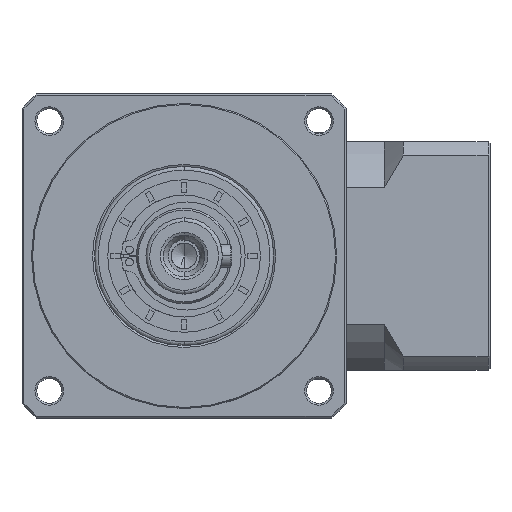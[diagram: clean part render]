
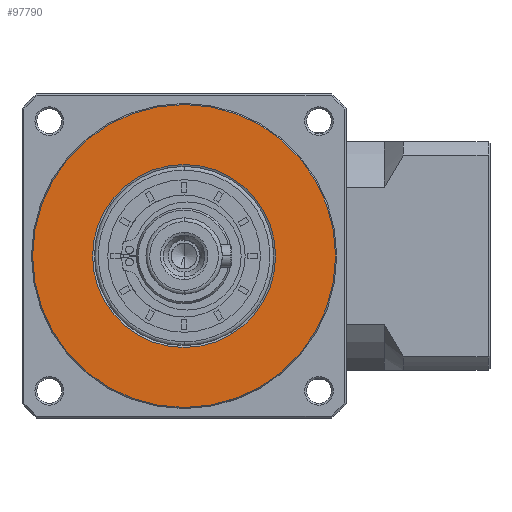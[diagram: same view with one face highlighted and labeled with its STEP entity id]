
A CAD part, left-side view. The second image highlights one B-rep face of the part: STEP entity #97790.
In plain terms, the highlighted planar face has unit normal (-1, 0, 0).
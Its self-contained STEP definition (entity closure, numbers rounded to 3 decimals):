
#17959 = VERTEX_POINT ( 'NONE', #68203 ) ;
#18831 = ORIENTED_EDGE ( 'NONE', *, *, #155506, .T. ) ;
#22354 = CARTESIAN_POINT ( 'NONE',  ( -154.843, 113.467, 43.294 ) ) ;
#25557 = ORIENTED_EDGE ( 'NONE', *, *, #71337, .F. ) ;
#32565 = PLANE ( 'NONE',  #141784 ) ;
#33089 = EDGE_LOOP ( 'NONE', ( #63223, #25557 ) ) ;
#35493 = DIRECTION ( 'NONE',  ( 1., 0., 0. ) ) ;
#53352 = CARTESIAN_POINT ( 'NONE',  ( -154.843, 153.179, 43.294 ) ) ;
#55629 = CARTESIAN_POINT ( 'NONE',  ( -154.843, 153.179, 43.294 ) ) ;
#57890 = EDGE_CURVE ( 'NONE', #110725, #17959, #165144, .T. ) ;
#63223 = ORIENTED_EDGE ( 'NONE', *, *, #150750, .F. ) ;
#65818 = AXIS2_PLACEMENT_3D ( 'NONE', #53352, #148348, #66980 ) ;
#66980 = DIRECTION ( 'NONE',  ( 0., 0., -1. ) ) ;
#68203 = CARTESIAN_POINT ( 'NONE',  ( -154.843, 153.179, 19.294 ) ) ;
#69248 = DIRECTION ( 'NONE',  ( 0., 0., -1. ) ) ;
#71337 = EDGE_CURVE ( 'NONE', #168009, #132853, #145978, .T. ) ;
#73982 = DIRECTION ( 'NONE',  ( 1., 0., 0. ) ) ;
#74201 = DIRECTION ( 'NONE',  ( -1., 0., 0. ) ) ;
#85380 = ORIENTED_EDGE ( 'NONE', *, *, #57890, .T. ) ;
#93080 = CARTESIAN_POINT ( 'NONE',  ( -154.843, 153.179, 67.294 ) ) ;
#95790 = AXIS2_PLACEMENT_3D ( 'NONE', #55629, #150587, #69248 ) ;
#97790 = ADVANCED_FACE ( 'NONE', ( #117726, #153890 ), #32565, .T. ) ;
#108572 = AXIS2_PLACEMENT_3D ( 'NONE', #116745, #35493, #130411 ) ;
#110725 = VERTEX_POINT ( 'NONE', #93080 ) ;
#116745 = CARTESIAN_POINT ( 'NONE',  ( -154.843, 153.179, 43.294 ) ) ;
#117726 = FACE_OUTER_BOUND ( 'NONE', #33089, .T. ) ;
#130411 = DIRECTION ( 'NONE',  ( 0., 1., 0. ) ) ;
#132853 = VERTEX_POINT ( 'NONE', #166677 ) ;
#141784 = AXIS2_PLACEMENT_3D ( 'NONE', #155490, #74201, #169121 ) ;
#145978 = CIRCLE ( 'NONE', #163879, 39.711 ) ;
#148348 = DIRECTION ( 'NONE',  ( 1., 0., 0. ) ) ;
#150587 = DIRECTION ( 'NONE',  ( 1., 0., 0. ) ) ;
#150750 = EDGE_CURVE ( 'NONE', #132853, #168009, #158758, .T. ) ;
#153890 = FACE_BOUND ( 'NONE', #166730, .T. ) ;
#155280 = CARTESIAN_POINT ( 'NONE',  ( -154.843, 153.179, 43.294 ) ) ;
#155490 = CARTESIAN_POINT ( 'NONE',  ( -154.843, 153.179, 43.294 ) ) ;
#155506 = EDGE_CURVE ( 'NONE', #17959, #110725, #171133, .T. ) ;
#158758 = CIRCLE ( 'NONE', #108572, 39.711 ) ;
#163879 = AXIS2_PLACEMENT_3D ( 'NONE', #155280, #73982, #168905 ) ;
#165144 = CIRCLE ( 'NONE', #65818, 24. ) ;
#166677 = CARTESIAN_POINT ( 'NONE',  ( -154.843, 192.89, 43.294 ) ) ;
#166730 = EDGE_LOOP ( 'NONE', ( #18831, #85380 ) ) ;
#168009 = VERTEX_POINT ( 'NONE', #22354 ) ;
#168905 = DIRECTION ( 'NONE',  ( 0., 1., 0. ) ) ;
#169121 = DIRECTION ( 'NONE',  ( 0., 0., -1. ) ) ;
#171133 = CIRCLE ( 'NONE', #95790, 24. ) ;
